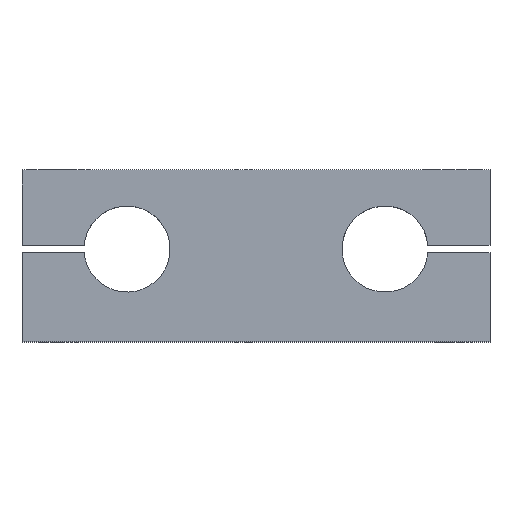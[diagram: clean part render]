
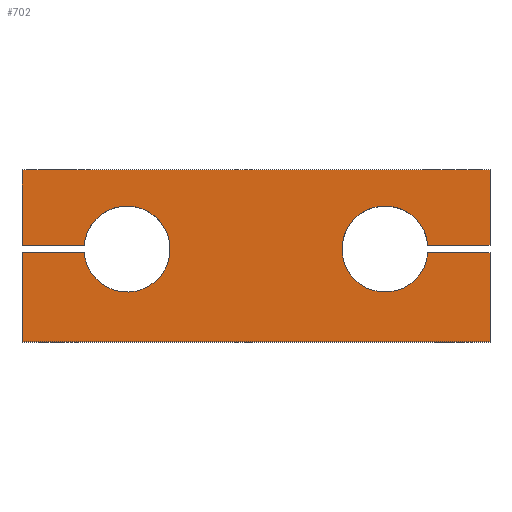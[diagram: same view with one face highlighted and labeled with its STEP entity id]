
A CAD part, top view. The second image highlights one B-rep face of the part: STEP entity #702.
In plain terms, the highlighted planar face has unit normal (0, 0, 1).
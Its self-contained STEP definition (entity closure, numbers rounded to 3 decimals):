
#19 = DIRECTION ( 'NONE',  ( 0., -1., 0. ) ) ;
#48 = VECTOR ( 'NONE', #755, 1000. ) ;
#49 = CARTESIAN_POINT ( 'NONE',  ( -68., 3.075, 10. ) ) ;
#60 = EDGE_CURVE ( 'NONE', #855, #326, #973, .T. ) ;
#65 = VECTOR ( 'NONE', #774, 1000. ) ;
#68 = ORIENTED_EDGE ( 'NONE', *, *, #862, .T. ) ;
#77 = VECTOR ( 'NONE', #963, 1000. ) ;
#107 = CARTESIAN_POINT ( 'NONE',  ( 49.954, 3.075, 10. ) ) ;
#111 = ORIENTED_EDGE ( 'NONE', *, *, #235, .F. ) ;
#127 = DIRECTION ( 'NONE',  ( 1., 0., 0. ) ) ;
#131 = DIRECTION ( 'NONE',  ( 1., 0., 0. ) ) ;
#146 = EDGE_CURVE ( 'NONE', #790, #1092, #1070, .T. ) ;
#156 = LINE ( 'NONE', #243, #48 ) ;
#163 = CARTESIAN_POINT ( 'NONE',  ( 49.954, 0.925, 10. ) ) ;
#164 = LINE ( 'NONE', #513, #177 ) ;
#177 = VECTOR ( 'NONE', #506, 1000. ) ;
#178 = VECTOR ( 'NONE', #398, 1000. ) ;
#179 = EDGE_CURVE ( 'NONE', #754, #855, #527, .T. ) ;
#183 = EDGE_CURVE ( 'NONE', #955, #874, #427, .T. ) ;
#194 = CARTESIAN_POINT ( 'NONE',  ( -68., 3.075, 10. ) ) ;
#206 = VECTOR ( 'NONE', #895, 1000. ) ;
#217 = CARTESIAN_POINT ( 'NONE',  ( 37.5, 2., 10. ) ) ;
#231 = DIRECTION ( 'NONE',  ( 0., 0., 1. ) ) ;
#233 = AXIS2_PLACEMENT_3D ( 'NONE', #920, #231, #131 ) ;
#235 = EDGE_CURVE ( 'NONE', #915, #754, #908, .T. ) ;
#243 = CARTESIAN_POINT ( 'NONE',  ( -68., -25., 10. ) ) ;
#279 = CARTESIAN_POINT ( 'NONE',  ( -68., -25., 10. ) ) ;
#295 = DIRECTION ( 'NONE',  ( 0., 0., 1. ) ) ;
#301 = CARTESIAN_POINT ( 'NONE',  ( -37.5, 2., 10. ) ) ;
#326 = VERTEX_POINT ( 'NONE', #49 ) ;
#329 = ORIENTED_EDGE ( 'NONE', *, *, #1080, .T. ) ;
#353 = LINE ( 'NONE', #898, #670 ) ;
#360 = AXIS2_PLACEMENT_3D ( 'NONE', #217, #757, #928 ) ;
#389 = EDGE_CURVE ( 'NONE', #956, #1049, #404, .T. ) ;
#398 = DIRECTION ( 'NONE',  ( -1., 0., 0. ) ) ;
#404 = LINE ( 'NONE', #953, #65 ) ;
#409 = VECTOR ( 'NONE', #540, 1000. ) ;
#423 = ORIENTED_EDGE ( 'NONE', *, *, #183, .F. ) ;
#427 = CIRCLE ( 'NONE', #360, 12.5 ) ;
#429 = EDGE_CURVE ( 'NONE', #790, #915, #519, .T. ) ;
#469 = CARTESIAN_POINT ( 'NONE',  ( -25., 2., 10. ) ) ;
#471 = EDGE_CURVE ( 'NONE', #897, #955, #164, .T. ) ;
#488 = DIRECTION ( 'NONE',  ( 1., 0., 0. ) ) ;
#495 = ORIENTED_EDGE ( 'NONE', *, *, #703, .T. ) ;
#498 = VECTOR ( 'NONE', #127, 1000. ) ;
#505 = CARTESIAN_POINT ( 'NONE',  ( 68., 25., 10. ) ) ;
#506 = DIRECTION ( 'NONE',  ( -1., 0., 0. ) ) ;
#513 = CARTESIAN_POINT ( 'NONE',  ( 36.5, 3.075, 10. ) ) ;
#519 = LINE ( 'NONE', #947, #523 ) ;
#523 = VECTOR ( 'NONE', #676, 1000. ) ;
#527 = CIRCLE ( 'NONE', #987, 12.5 ) ;
#533 = EDGE_LOOP ( 'NONE', ( #964, #725, #111, #603, #665, #68, #719, #673, #423, #979, #329, #495, #694 ) ) ;
#535 = CARTESIAN_POINT ( 'NONE',  ( 68., -25., 10. ) ) ;
#540 = DIRECTION ( 'NONE',  ( -1., 0., 0. ) ) ;
#550 = CARTESIAN_POINT ( 'NONE',  ( 68., 0.925, 10. ) ) ;
#554 = CARTESIAN_POINT ( 'NONE',  ( 36.5, 0.925, 10. ) ) ;
#556 = DIRECTION ( 'NONE',  ( 1., 0., 0. ) ) ;
#584 = EDGE_CURVE ( 'NONE', #783, #326, #353, .T. ) ;
#588 = EDGE_CURVE ( 'NONE', #874, #1049, #989, .T. ) ;
#594 = CARTESIAN_POINT ( 'NONE',  ( -68., 0.925, 10. ) ) ;
#603 = ORIENTED_EDGE ( 'NONE', *, *, #429, .F. ) ;
#607 = CARTESIAN_POINT ( 'NONE',  ( -49.954, 3.075, 10. ) ) ;
#657 = PLANE ( 'NONE',  #233 ) ;
#665 = ORIENTED_EDGE ( 'NONE', *, *, #146, .T. ) ;
#666 = CARTESIAN_POINT ( 'NONE',  ( -68., 25., 10. ) ) ;
#670 = VECTOR ( 'NONE', #19, 1000. ) ;
#673 = ORIENTED_EDGE ( 'NONE', *, *, #588, .F. ) ;
#676 = DIRECTION ( 'NONE',  ( 1., 0., 0. ) ) ;
#694 = ORIENTED_EDGE ( 'NONE', *, *, #584, .T. ) ;
#702 = ADVANCED_FACE ( 'NONE', ( #1099 ), #657, .T. ) ;
#703 = EDGE_CURVE ( 'NONE', #880, #783, #926, .T. ) ;
#719 = ORIENTED_EDGE ( 'NONE', *, *, #389, .T. ) ;
#724 = DIRECTION ( 'NONE',  ( 0., 0., 1. ) ) ;
#725 = ORIENTED_EDGE ( 'NONE', *, *, #179, .F. ) ;
#741 = CARTESIAN_POINT ( 'NONE',  ( -68., 25., 10. ) ) ;
#754 = VERTEX_POINT ( 'NONE', #469 ) ;
#755 = DIRECTION ( 'NONE',  ( 1., 0., 0. ) ) ;
#757 = DIRECTION ( 'NONE',  ( 0., 0., 1. ) ) ;
#774 = DIRECTION ( 'NONE',  ( 0., 1., 0. ) ) ;
#783 = VERTEX_POINT ( 'NONE', #741 ) ;
#790 = VERTEX_POINT ( 'NONE', #594 ) ;
#799 = LINE ( 'NONE', #971, #77 ) ;
#843 = CARTESIAN_POINT ( 'NONE',  ( -49.954, 0.925, 10. ) ) ;
#855 = VERTEX_POINT ( 'NONE', #607 ) ;
#857 = CARTESIAN_POINT ( 'NONE',  ( 68., 3.075, 10. ) ) ;
#862 = EDGE_CURVE ( 'NONE', #1092, #956, #156, .T. ) ;
#874 = VERTEX_POINT ( 'NONE', #163 ) ;
#880 = VERTEX_POINT ( 'NONE', #505 ) ;
#886 = CARTESIAN_POINT ( 'NONE',  ( -68., 25., 10. ) ) ;
#895 = DIRECTION ( 'NONE',  ( 0., -1., 0. ) ) ;
#897 = VERTEX_POINT ( 'NONE', #857 ) ;
#898 = CARTESIAN_POINT ( 'NONE',  ( -68., 25., 10. ) ) ;
#908 = CIRCLE ( 'NONE', #965, 12.5 ) ;
#915 = VERTEX_POINT ( 'NONE', #843 ) ;
#920 = CARTESIAN_POINT ( 'NONE',  ( 0., 0., 10. ) ) ;
#926 = LINE ( 'NONE', #666, #178 ) ;
#928 = DIRECTION ( 'NONE',  ( 1., 0., 0. ) ) ;
#947 = CARTESIAN_POINT ( 'NONE',  ( -68., 0.925, 10. ) ) ;
#953 = CARTESIAN_POINT ( 'NONE',  ( 68., 25., 10. ) ) ;
#955 = VERTEX_POINT ( 'NONE', #107 ) ;
#956 = VERTEX_POINT ( 'NONE', #535 ) ;
#963 = DIRECTION ( 'NONE',  ( 0., 1., 0. ) ) ;
#964 = ORIENTED_EDGE ( 'NONE', *, *, #60, .F. ) ;
#965 = AXIS2_PLACEMENT_3D ( 'NONE', #1086, #295, #556 ) ;
#971 = CARTESIAN_POINT ( 'NONE',  ( 68., 25., 10. ) ) ;
#973 = LINE ( 'NONE', #194, #409 ) ;
#979 = ORIENTED_EDGE ( 'NONE', *, *, #471, .F. ) ;
#987 = AXIS2_PLACEMENT_3D ( 'NONE', #301, #724, #488 ) ;
#989 = LINE ( 'NONE', #554, #498 ) ;
#1049 = VERTEX_POINT ( 'NONE', #550 ) ;
#1070 = LINE ( 'NONE', #886, #206 ) ;
#1080 = EDGE_CURVE ( 'NONE', #897, #880, #799, .T. ) ;
#1086 = CARTESIAN_POINT ( 'NONE',  ( -37.5, 2., 10. ) ) ;
#1092 = VERTEX_POINT ( 'NONE', #279 ) ;
#1099 = FACE_OUTER_BOUND ( 'NONE', #533, .T. ) ;
